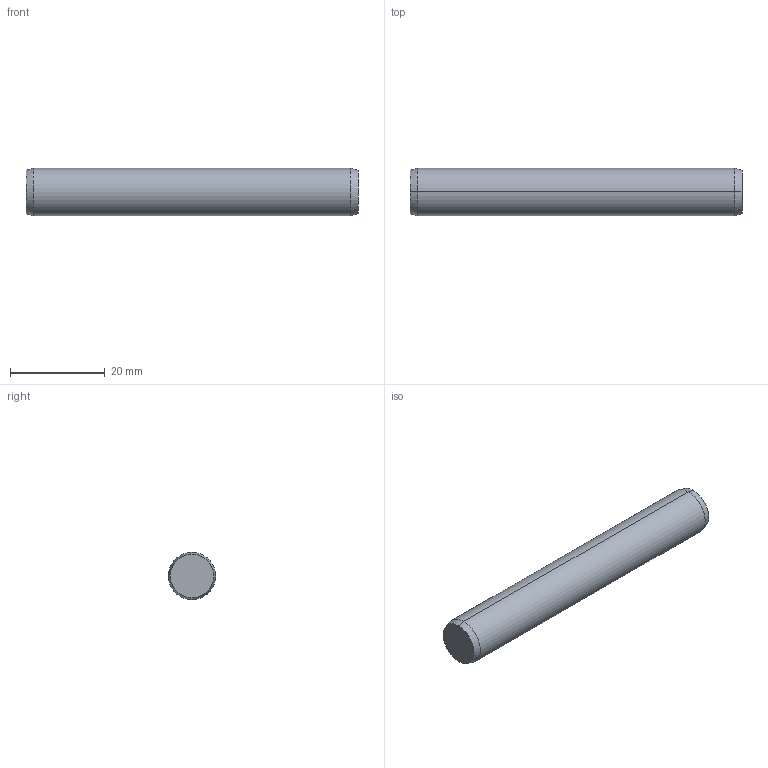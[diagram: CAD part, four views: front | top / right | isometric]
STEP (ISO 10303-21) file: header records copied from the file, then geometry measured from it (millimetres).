
FILE_DESCRIPTION (( 'STEP AP203' ), '1' );
FILE_NAME ('P1206.100-070.step', '2017-06-14T08:34:19', ( 'User' ), ( '' ), 'SwSTEP 2.0', 'SolidWorks 2009', '' );
FILE_SCHEMA (( 'CONFIG_CONTROL_DESIGN' ));
Length unit declared in the file: millimetre
Products named in the file (1): P1206.100-070
Bounding box: 70 x 10 x 10 mm (x, y, z)
Volume: 5479.4 mm3; surface area: 2331.4 mm2
Topology: 1 solids, 1 shells, 8 faces, 14 edges, 8 vertices
Faces by surface type: cone 4, cylinder 2, plane 2
Entity records: 271 total; most frequent: DIRECTION 40, CARTESIAN_POINT 31, ORIENTED_EDGE 28, AXIS2_PLACEMENT_3D 17, EDGE_CURVE 14, CIRCLE 8, FACE_OUTER_BOUND 8, PERSON_AND_ORGANIZATION 8
